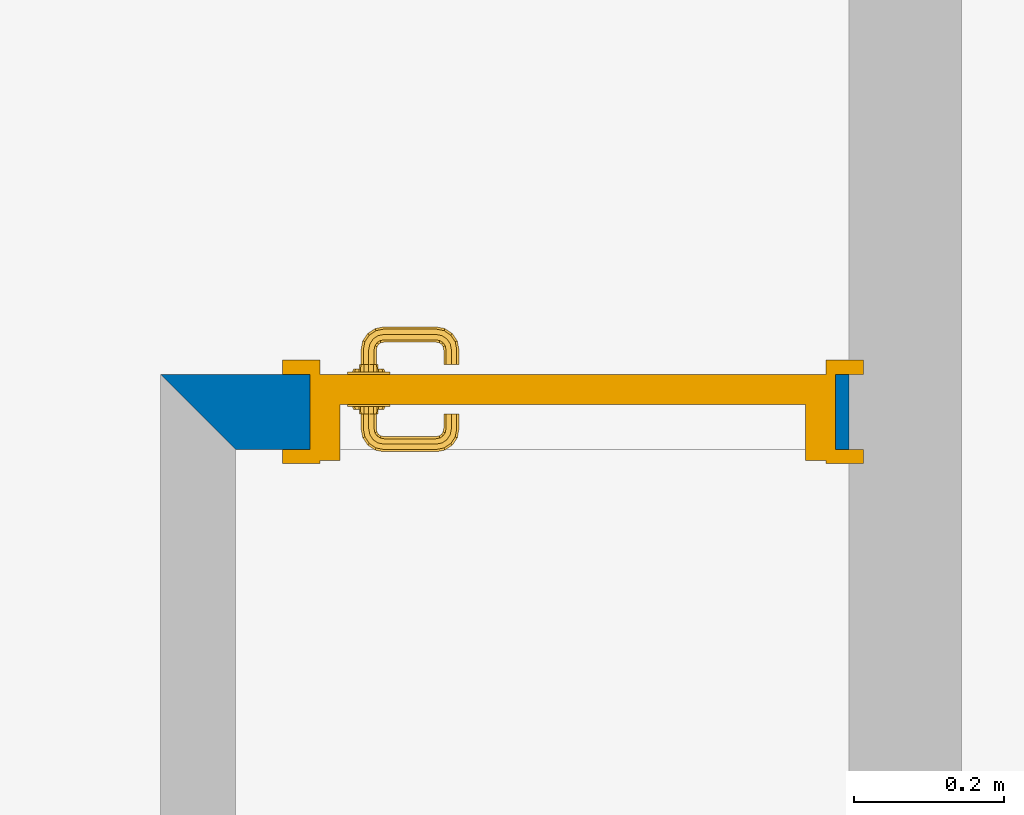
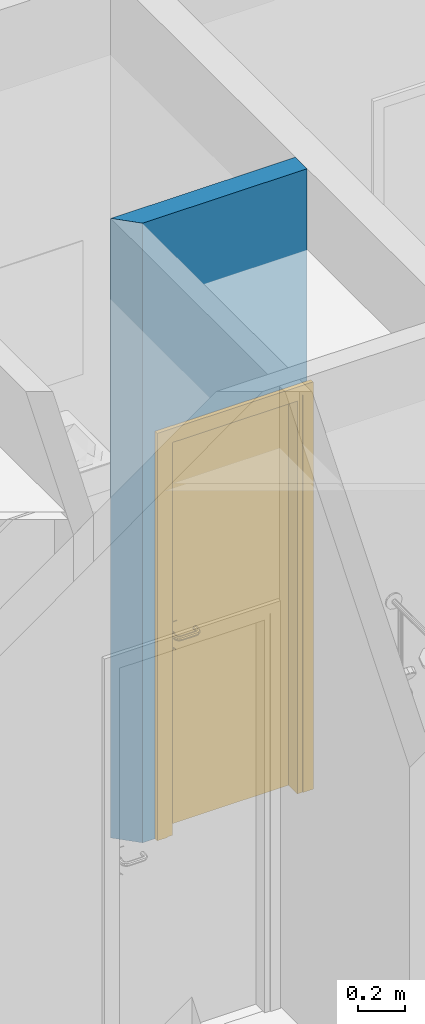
# One storey, part 22 of 194: 1 door, 1 wall, 1 opening.
"""IFC2X3 building model written with IfcOpenShell, lengths in millimetres."""

from ifc_helpers import new_model, entity, si_unit, converted_unit, derived_unit, money_unit, direction, frame, origin_with_axes, origin_2d_with_axis, place, context, subcontext, project, spatial, polyline, rectangle, outline, extrude, open_shell, faceted_brep, surface_model, source, transform, mapped, material, layer, layer_set, layer_usage, type_object, element, fill, save


model = new_model("IFC2X3")

# Units and contexts
model_context = context("Model", 3, precision=1e-05, world=origin_with_axes(), true_north=direction((0.0, 1.0)))
body_context = subcontext(model_context, "Body", "Model", "MODEL_VIEW")
ifc_project = project(units=[si_unit("LENGTHUNIT", "METRE", prefix="MILLI"), si_unit("AREAUNIT", "SQUARE_METRE"), si_unit("VOLUMEUNIT", "CUBIC_METRE"), converted_unit("PLANEANGLEUNIT", "DEGREE", entity("IfcPlaneAngleMeasure", 0.0174532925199), si_unit("PLANEANGLEUNIT", "RADIAN"), dimensions=[0, 0, 0, 0, 0, 0, 0]), si_unit("SOLIDANGLEUNIT", "STERADIAN"), money_unit("EUR"), converted_unit("TIMEUNIT", "Year", entity("IfcTimeMeasure", 31556926.0), si_unit("TIMEUNIT", "SECOND"), dimensions=[0, 0, 1, 0, 0, 0, 0]), si_unit("MASSUNIT", "GRAM", prefix="KILO"), si_unit("THERMODYNAMICTEMPERATUREUNIT", "DEGREE_CELSIUS"), si_unit("LUMINOUSINTENSITYUNIT", "LUMEN"), si_unit("ENERGYUNIT", "JOULE", prefix="MEGA"), derived_unit("THERMALCONDUCTANCEUNIT", [(si_unit("POWERUNIT", "WATT"), 1), (si_unit("LENGTHUNIT", "METRE"), -1), (si_unit("THERMODYNAMICTEMPERATUREUNIT", "KELVIN"), -1)]), derived_unit("SPECIFICHEATCAPACITYUNIT", [(si_unit("ENERGYUNIT", "JOULE"), 1), (si_unit("MASSUNIT", "GRAM", prefix="KILO"), -1), (si_unit("THERMODYNAMICTEMPERATUREUNIT", "KELVIN"), -1)]), derived_unit("MASSDENSITYUNIT", [(si_unit("MASSUNIT", "GRAM", prefix="KILO"), 1), (si_unit("VOLUMEUNIT", "CUBIC_METRE"), -1)])], contexts=[model_context])

# Site, building, storey
site_placement = place(None, origin_with_axes())
site = spatial("IfcSite", under=ifc_project, at=site_placement, Name="Site", CompositionType="ELEMENT")
building_placement = place(site_placement, origin_with_axes())
building = spatial("IfcBuilding", under=site, at=building_placement, Name="Building", CompositionType="ELEMENT")
storey_placement = place(building_placement, frame((0.0, 0.0, 3000.0), z_axis=(0.0, 0.0, 1.0), x_axis=(1.0, 0.0, 0.0)))
storey = spatial("IfcBuildingStorey", under=building, at=storey_placement, Name="2 KORRUS", CompositionType="ELEMENT", Elevation=3000.0)

# Wall, opening, door
ifc_material = material(Name="Kivi -Ol.Olev Konstruktsioon")
ifc_layer = layer(ifc_material, 100.0, ventilated="UNKNOWN")
ifc_layer_set = layer_set([ifc_layer], Name="ol.olev ss 100")
ifc_layer_usage = layer_usage(ifc_layer_set, "AXIS2", "POSITIVE", -100.0)
wall_type = type_object("IfcWallType", Name="SW - 022", PredefinedType="NOTDEFINED")
wall_placement = place(storey_placement, frame((72190.5515735, 38994.6064083, 0.0), z_axis=(0.0, 0.0, 1.0), x_axis=(1.0, 0.0, 0.0)))
wall = element("IfcWallStandardCase", 1, at=wall_placement, inside=storey, type_object=wall_type, material=ifc_layer_usage, Name="ol.olev ss 100", context=body_context, shape_type="SweptSolid", body=[
    extrude(outline(polyline([(0.0, -100.0), (816.876360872, -100.0), (816.876360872, 0.0), (-100.0, 0.0), (0.0, -100.0)])), origin_with_axes(), (0.0, 0.0, 1.0), 3250.0),
])
opening_placement = place(wall_placement, frame((449.330313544, 0.0, 0.0), z_axis=(0.0, 0.0, 1.0), x_axis=(1.0, 0.0, 0.0)))
opening = element("IfcOpeningElement", 2, at=opening_placement, cuts=wall, Name="Siseuks * Door 22", context=body_context, shape_type="SweptSolid", body=[
    extrude(rectangle(XDim=699.999999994, YDim=2100.0, at=origin_2d_with_axis()), frame((0.0, -100.0, 1050.0), z_axis=(0.0, 1.0, 0.0), x_axis=(1.0, 0.0, 0.0)), (0.0, 0.0, 1.0), 300.000000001),
    extrude(rectangle(XDim=773.999999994, YDim=2137.0, at=origin_2d_with_axis()), frame((0.0, -100.0, 1068.5), z_axis=(0.0, 1.0, 0.0), x_axis=(1.0, 0.0, 0.0)), (0.0, 0.0, -1.0), 100.0),
    extrude(rectangle(XDim=773.999999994, YDim=2137.0, at=origin_2d_with_axis()), frame((0.0, 0.0, 1068.5), z_axis=(0.0, -1.0, 0.0), x_axis=(1.0, 0.0, 0.0)), (0.0, 0.0, -1.0), 100.0),
])
door_style = type_object("IfcDoorStyle", Name="SU-B231C   700×2\xa0100", ConstructionType="NOTDEFINED", OperationType="SINGLE_SWING_RIGHT", ParameterTakesPrecedence=False, Sizeable=False)
shared_shape = source(origin_with_axes(), body_context, "Body", "SurfaceModel", [
    faceted_brep([(-386.999999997, -119.0, 0.0), (-386.999999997, -100.0, 0.0), (-336.999999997, -100.0, 0.0), (-336.999999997, -119.0, 0.0), (-386.999999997, -119.0, 2137.0), (-386.999999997, -100.0, 2137.0), (-336.999999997, -100.0, 2087.0), (-336.999999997, -119.0, 2087.0)], [[[0, 1, 2, 3]], [[4, 5, 1, 0]], [[1, 5, 6, 2]], [[3, 2, 6, 7]], [[0, 3, 7, 4]], [[7, 6, 5, 4]]]),
    faceted_brep([(386.999999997, -119.0, 2137.0), (386.999999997, -100.0, 2137.0), (336.999999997, -100.0, 2087.0), (336.999999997, -119.0, 2087.0), (386.999999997, -119.0, 0.0), (386.999999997, -100.0, 0.0), (336.999999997, -100.0, 0.0), (336.999999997, -119.0, 0.0)], [[[0, 1, 2, 3]], [[4, 5, 1, 0]], [[1, 5, 6, 2]], [[3, 2, 6, 7]], [[0, 3, 7, 4]], [[7, 6, 5, 4]]]),
    faceted_brep([(-386.999999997, -119.0, 2137.0), (-386.999999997, -100.0, 2137.0), (-336.999999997, -100.0, 2087.0), (-336.999999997, -119.0, 2087.0), (386.999999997, -119.0, 2137.0), (386.999999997, -100.0, 2137.0), (336.999999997, -100.0, 2087.0), (336.999999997, -119.0, 2087.0)], [[[0, 1, 2, 3]], [[4, 5, 1, 0]], [[1, 5, 6, 2]], [[3, 2, 6, 7]], [[0, 3, 7, 4]], [[7, 6, 5, 4]]]),
    faceted_brep([(-386.999999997, 19.0, 0.0), (-336.999999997, 19.0, 0.0), (-336.999999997, 0.0, 0.0), (-386.999999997, 0.0, 0.0), (-386.999999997, 19.0, 2137.0), (-336.999999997, 19.0, 2087.0), (-336.999999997, 0.0, 2087.0), (-386.999999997, 0.0, 2137.0)], [[[0, 1, 2, 3]], [[0, 4, 5, 1]], [[1, 5, 6, 2]], [[3, 2, 6, 7]], [[4, 0, 3, 7]], [[5, 4, 7, 6]]]),
    faceted_brep([(386.999999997, 19.0, 2137.0), (336.999999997, 19.0, 2087.0), (336.999999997, 0.0, 2087.0), (386.999999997, 0.0, 2137.0), (386.999999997, 19.0, 0.0), (336.999999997, 19.0, 0.0), (336.999999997, 0.0, 0.0), (386.999999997, 0.0, 0.0)], [[[0, 1, 2, 3]], [[0, 4, 5, 1]], [[1, 5, 6, 2]], [[3, 2, 6, 7]], [[4, 0, 3, 7]], [[5, 4, 7, 6]]]),
    faceted_brep([(-386.999999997, 19.0, 2137.0), (-336.999999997, 19.0, 2087.0), (-336.999999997, 0.0, 2087.0), (-386.999999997, 0.0, 2137.0), (386.999999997, 19.0, 2137.0), (336.999999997, 19.0, 2087.0), (336.999999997, 0.0, 2087.0), (386.999999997, 0.0, 2137.0)], [[[0, 1, 2, 3]], [[0, 4, 5, 1]], [[1, 5, 6, 2]], [[3, 2, 6, 7]], [[4, 0, 3, 7]], [[5, 4, 7, 6]]]),
    faceted_brep([(-309.999999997, -40.0, 0.0), (-309.999999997, -40.0, 2060.0), (-309.999999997, -115.0, 2060.0), (-309.999999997, -115.0, 0.0), (-321.999999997, -40.0, 2060.0), (-321.999999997, -40.0, 0.0), (-321.999999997, 0.0, 2060.0), (-349.999999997, 0.0, 2060.0), (-349.999999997, -115.0, 2060.0), (-349.999999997, -115.0, 0.0), (-349.999999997, 0.0, 0.0), (-321.999999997, 0.0, 0.0)], [[[0, 1, 2, 3]], [[4, 1, 0, 5]], [[4, 6, 7, 8, 2, 1]], [[3, 2, 8, 9]], [[5, 0, 3, 9, 10, 11]], [[6, 4, 5, 11]], [[6, 11, 10, 7]], [[10, 9, 8, 7]]]),
    faceted_brep([(321.999999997, -40.0, 2060.0), (309.999999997, -40.0, 2060.0), (309.999999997, -115.0, 2060.0), (349.999999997, -115.0, 2060.0), (349.999999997, 0.0, 2060.0), (321.999999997, 0.0, 2060.0), (321.999999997, -40.0, 0.0), (309.999999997, -40.0, 0.0), (309.999999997, -115.0, 0.0), (349.999999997, -115.0, 0.0), (349.999999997, 0.0, 0.0), (321.999999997, 0.0, 0.0)], [[[0, 1, 2, 3, 4, 5]], [[1, 0, 6, 7]], [[1, 7, 8, 2]], [[3, 2, 8, 9]], [[4, 3, 9, 10]], [[11, 5, 4, 10]], [[0, 5, 11, 6]], [[6, 11, 10, 9, 8, 7]]]),
    faceted_brep([(-321.999999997, 0.0, 2072.0), (-321.999999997, 0.0, 2060.0), (-349.999999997, 0.0, 2060.0), (-349.999999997, 0.0, 2100.0), (349.999999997, 0.0, 2100.0), (349.999999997, 0.0, 2060.0), (321.999999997, 0.0, 2060.0), (321.999999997, 0.0, 2072.0), (-321.999999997, -40.0, 2072.0), (-321.999999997, -40.0, 2060.0), (-309.999999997, -40.0, 2060.0), (-309.999999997, -115.0, 2060.0), (-349.999999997, -115.0, 2060.0), (-349.999999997, -115.0, 2100.0), (349.999999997, -115.0, 2100.0), (349.999999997, -115.0, 2060.0), (321.999999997, -40.0, 2060.0), (309.999999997, -115.0, 2060.0), (309.999999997, -40.0, 2060.0), (321.999999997, -40.0, 2072.0)], [[[0, 1, 2, 3, 4, 5, 6, 7]], [[1, 0, 8, 9]], [[9, 10, 11, 12, 2, 1]], [[2, 12, 13, 3]], [[3, 13, 14, 4]], [[4, 14, 15, 5]], [[16, 6, 5, 15, 17, 18]], [[7, 6, 16, 19]], [[0, 7, 19, 8]], [[16, 18, 10, 9, 8, 19]], [[10, 18, 17, 11]], [[17, 15, 14, 13, 12, 11]]]),
    faceted_brep([(-300.499999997, -40.0, 1060.0), (-300.499999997, -43.0, 1060.0), (-243.499999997, -43.0, 1060.0), (-243.499999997, -40.0, 1060.0), (-300.499999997, -40.0, 870.0), (-300.499999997, -43.0, 870.0), (-243.499999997, -43.0, 870.0), (-243.499999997, -40.0, 870.0)], [[[0, 1, 2, 3]], [[4, 5, 1, 0]], [[1, 5, 6, 2]], [[3, 2, 6, 7]], [[0, 3, 7, 4]], [[7, 6, 5, 4]]]),
    surface_model("IfcShellBasedSurfaceModel", [(-261.999999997, -53.0, 1000.0), (-261.999999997, -72.0150859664, 1000.0), (-264.928932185, -72.303560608, 992.928932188), (-264.928932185, -53.0, 992.928932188), (-264.928932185, -53.0, 1007.07106781), (-264.928932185, -72.303560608, 1007.07106781), (-261.057796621, -76.751862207, 1000.0), (-263.816790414, -77.8946748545, 992.928932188), (-271.999999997, -73.0, 990.0), (-271.999999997, -53.0, 990.0), (-271.999999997, -53.0, 1010.0), (-271.999999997, -73.0, 1010.0), (-263.816790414, -77.8946748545, 1007.07106781), (-258.932537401, -79.9325374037, 1000.0), (-261.04417983, -82.0441798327, 992.928932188), (-270.477590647, -80.6536686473, 990.0), (-279.071067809, -73.696439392, 992.928932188), (-279.071067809, -53.0, 992.928932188), (-279.071067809, -53.0, 1007.07106781), (-279.071067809, -73.696439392, 1007.07106781), (-270.477590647, -80.6536686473, 1010.0), (-261.04417983, -82.0441798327, 1007.07106781), (-255.751862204, -82.0577966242, 1000.0), (-256.894674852, -84.8167904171, 992.928932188), (-266.142135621, -87.1421356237, 990.0), (-277.13839088, -83.4126624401, 992.928932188), (-281.999999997, -73.9849140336, 1000.0), (-281.999999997, -53.0, 1000.0), (-277.13839088, -83.4126624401, 1007.07106781), (-266.142135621, -87.1421356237, 1010.0), (-256.894674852, -84.8167904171, 1007.07106781), (-251.015085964, -83.0, 1000.0), (-251.303560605, -85.9289321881, 992.928932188), (-259.653668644, -91.4775906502, 990.0), (-271.240091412, -92.2400914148, 992.928932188), (-279.897384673, -84.5554750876, 1000.0), (-271.240091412, -92.2400914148, 1007.07106781), (-259.653668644, -91.4775906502, 1010.0), (-251.303560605, -85.9289321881, 1007.07106781), (-182.984914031, -83.0, 1000.0), (-182.696439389, -85.9289321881, 992.928932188), (-251.999999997, -93.0, 990.0), (-262.412662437, -98.1383908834, 992.928932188), (-273.351733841, -94.3517338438, 1000.0), (-262.412662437, -98.1383908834, 1007.07106781), (-251.999999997, -93.0, 1010.0), (-182.696439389, -85.9289321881, 1007.07106781), (-178.24813779, -82.0577966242, 1000.0), (-177.105325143, -84.8167904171, 992.928932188), (-181.999999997, -93.0, 990.0), (-252.696439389, -100.071067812, 992.928932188), (-263.555475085, -100.897384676, 1000.0), (-252.696439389, -100.071067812, 1007.07106781), (-181.999999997, -93.0, 1010.0), (-177.105325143, -84.8167904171, 1007.07106781), (-175.067462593, -79.9325374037, 1000.0), (-172.955820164, -82.0441798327, 992.928932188), (-174.34633135, -91.4775906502, 990.0), (-181.303560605, -100.071067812, 992.928932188), (-252.984914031, -103.0, 1000.0), (-181.303560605, -100.071067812, 1007.07106781), (-174.34633135, -91.4775906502, 1010.0), (-172.955820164, -82.0441798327, 1007.07106781), (-172.942203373, -76.751862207, 1000.0), (-170.18320958, -77.8946748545, 992.928932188), (-167.857864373, -87.1421356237, 990.0), (-171.587337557, -98.1383908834, 992.928932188), (-181.015085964, -103.0, 1000.0), (-171.587337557, -98.1383908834, 1007.07106781), (-167.857864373, -87.1421356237, 1010.0), (-170.18320958, -77.8946748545, 1007.07106781), (-171.999999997, -72.0150859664, 1000.0), (-169.071067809, -72.303560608, 992.928932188), (-163.522409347, -80.6536686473, 990.0), (-162.759908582, -92.2400914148, 992.928932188), (-170.444524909, -100.897384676, 1000.0), (-162.759908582, -92.2400914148, 1007.07106781), (-163.522409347, -80.6536686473, 1010.0), (-169.071067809, -72.303560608, 1007.07106781), (-171.999999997, -53.0, 1000.0), (-169.071067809, -53.0, 992.928932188), (-161.999999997, -73.0, 990.0), (-156.861609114, -83.4126624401, 992.928932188), (-160.648266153, -94.3517338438, 1000.0), (-156.861609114, -83.4126624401, 1007.07106781), (-161.999999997, -73.0, 1010.0), (-169.071067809, -53.0, 1007.07106781), (-161.999999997, -53.0, 1010.0), (-154.928932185, -53.0, 1007.07106781), (-151.999999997, -53.0, 1000.0), (-154.928932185, -53.0, 992.928932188), (-161.999999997, -53.0, 990.0), (-154.928932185, -73.696439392, 992.928932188), (-154.102615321, -84.5554750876, 1000.0), (-154.928932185, -73.696439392, 1007.07106781), (-151.999999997, -73.9849140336, 1000.0)], [open_shell([[[0, 1, 2, 3]], [[4, 5, 1, 0]], [[1, 6, 7, 2]], [[3, 2, 8, 9]], [[10, 11, 5, 4]], [[5, 12, 6, 1]], [[6, 13, 14, 7]], [[2, 7, 15, 8]], [[9, 8, 16, 17]], [[18, 19, 11, 10]], [[11, 20, 12, 5]], [[12, 21, 13, 6]], [[13, 22, 23, 14]], [[7, 14, 24, 15]], [[8, 15, 25, 16]], [[17, 16, 26, 27]], [[27, 26, 19, 18]], [[19, 28, 20, 11]], [[20, 29, 21, 12]], [[21, 30, 22, 13]], [[22, 31, 32, 23]], [[14, 23, 33, 24]], [[15, 24, 34, 25]], [[16, 25, 35, 26]], [[26, 35, 28, 19]], [[28, 36, 29, 20]], [[29, 37, 30, 21]], [[30, 38, 31, 22]], [[31, 39, 40, 32]], [[23, 32, 41, 33]], [[24, 33, 42, 34]], [[25, 34, 43, 35]], [[35, 43, 36, 28]], [[36, 44, 37, 29]], [[37, 45, 38, 30]], [[38, 46, 39, 31]], [[39, 47, 48, 40]], [[32, 40, 49, 41]], [[33, 41, 50, 42]], [[34, 42, 51, 43]], [[43, 51, 44, 36]], [[44, 52, 45, 37]], [[45, 53, 46, 38]], [[46, 54, 47, 39]], [[47, 55, 56, 48]], [[40, 48, 57, 49]], [[41, 49, 58, 50]], [[42, 50, 59, 51]], [[51, 59, 52, 44]], [[52, 60, 53, 45]], [[53, 61, 54, 46]], [[54, 62, 55, 47]], [[55, 63, 64, 56]], [[48, 56, 65, 57]], [[49, 57, 66, 58]], [[50, 58, 67, 59]], [[59, 67, 60, 52]], [[60, 68, 61, 53]], [[61, 69, 62, 54]], [[62, 70, 63, 55]], [[63, 71, 72, 64]], [[56, 64, 73, 65]], [[57, 65, 74, 66]], [[58, 66, 75, 67]], [[67, 75, 68, 60]], [[68, 76, 69, 61]], [[69, 77, 70, 62]], [[70, 78, 71, 63]], [[71, 79, 80, 72]], [[64, 72, 81, 73]], [[65, 73, 82, 74]], [[66, 74, 83, 75]], [[75, 83, 76, 68]], [[76, 84, 77, 69]], [[77, 85, 78, 70]], [[78, 86, 79, 71]], [[79, 86, 87, 88, 89, 90, 91, 80]], [[72, 80, 91, 81]], [[73, 81, 92, 82]], [[74, 82, 93, 83]], [[83, 93, 84, 76]], [[84, 94, 85, 77]], [[85, 87, 86, 78]], [[94, 88, 87, 85]], [[95, 89, 88, 94]], [[92, 90, 89, 95]], [[81, 91, 90, 92]], [[82, 92, 95, 93]], [[93, 95, 94, 84]]])]),
    faceted_brep([(-261.607695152, -53.0, 994.0), (-260.741669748, -43.0, 993.5), (-258.999999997, -43.0, 1000.0), (-259.999999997, -53.0, 1000.0), (-265.999999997, -53.0, 989.607695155), (-265.499999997, -43.0, 988.741669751), (-271.999999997, -43.0, 987.0), (-278.499999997, -43.0, 988.741669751), (-283.258330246, -43.0, 993.5), (-284.999999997, -43.0, 1000.0), (-283.258330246, -43.0, 1006.5), (-278.499999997, -43.0, 1011.25833025), (-271.999999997, -43.0, 1013.0), (-265.499999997, -43.0, 1011.25833025), (-260.741669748, -43.0, 1006.5), (-261.607695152, -53.0, 1006.0), (-265.999999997, -53.0, 1010.39230485), (-271.999999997, -53.0, 1012.0), (-277.999999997, -53.0, 1010.39230485), (-282.392304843, -53.0, 1006.0), (-283.999999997, -53.0, 1000.0), (-282.392304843, -53.0, 994.0), (-277.999999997, -53.0, 989.607695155), (-271.999999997, -53.0, 988.0)], [[[0, 1, 2, 3]], [[4, 5, 1, 0]], [[2, 1, 5, 6, 7, 8, 9, 10, 11, 12, 13, 14]], [[3, 2, 14, 15]], [[3, 15, 16, 17, 18, 19, 20, 21, 22, 23, 4, 0]], [[23, 6, 5, 4]], [[22, 7, 6, 23]], [[21, 8, 7, 22]], [[20, 9, 8, 21]], [[19, 10, 9, 20]], [[18, 11, 10, 19]], [[17, 12, 11, 18]], [[16, 13, 12, 17]], [[15, 14, 13, 16]]]),
    faceted_brep([(-254.679491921, -47.0, 895.0), (-252.947441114, -43.0, 894.0), (-249.999999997, -43.0, 905.0), (-251.999999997, -47.0, 905.0), (-261.999999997, -47.0, 887.679491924), (-260.999999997, -43.0, 885.947441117), (-271.999999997, -43.0, 883.0), (-282.999999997, -43.0, 885.947441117), (-291.05255888, -43.0, 894.0), (-293.999999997, -43.0, 905.0), (-291.05255888, -43.0, 916.0), (-282.999999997, -43.0, 924.052558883), (-271.999999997, -43.0, 927.0), (-260.999999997, -43.0, 924.052558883), (-252.947441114, -43.0, 916.0), (-254.679491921, -47.0, 915.0), (-261.999999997, -47.0, 922.320508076), (-271.999999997, -47.0, 925.0), (-281.999999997, -47.0, 922.320508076), (-289.320508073, -47.0, 915.0), (-291.999999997, -47.0, 905.0), (-289.320508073, -47.0, 895.0), (-281.999999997, -47.0, 887.679491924), (-271.999999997, -47.0, 885.0)], [[[0, 1, 2, 3]], [[4, 5, 1, 0]], [[2, 1, 5, 6, 7, 8, 9, 10, 11, 12, 13, 14]], [[3, 2, 14, 15]], [[3, 15, 16, 17, 18, 19, 20, 21, 22, 23, 4, 0]], [[23, 6, 5, 4]], [[22, 7, 6, 23]], [[21, 8, 7, 22]], [[20, 9, 8, 21]], [[19, 10, 9, 20]], [[18, 11, 10, 19]], [[17, 12, 11, 18]], [[16, 13, 12, 17]], [[15, 14, 13, 16]]]),
    faceted_brep([(-267.050252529, -49.0, 909.050252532), (-266.343145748, -47.0, 908.343145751), (-263.999999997, -47.0, 914.0), (-264.999999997, -49.0, 914.0), (-271.999999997, -49.0, 907.0), (-271.999999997, -47.0, 906.0), (-277.656854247, -47.0, 908.343145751), (-279.999999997, -47.0, 914.0), (-277.656854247, -47.0, 919.656854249), (-271.999999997, -47.0, 922.0), (-266.343145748, -47.0, 919.656854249), (-267.050252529, -49.0, 918.949747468), (-271.999999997, -49.0, 921.0), (-276.949747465, -49.0, 918.949747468), (-278.999999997, -49.0, 914.0), (-276.949747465, -49.0, 909.050252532)], [[[0, 1, 2, 3]], [[4, 5, 1, 0]], [[2, 1, 5, 6, 7, 8, 9, 10]], [[3, 2, 10, 11]], [[3, 11, 12, 13, 14, 15, 4, 0]], [[15, 6, 5, 4]], [[14, 7, 6, 15]], [[13, 8, 7, 14]], [[12, 9, 8, 13]], [[11, 10, 9, 12]]]),
    faceted_brep([(-300.499999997, 0.0, 1060.0), (-243.499999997, 0.0, 1060.0), (-243.499999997, 3.0, 1060.0), (-300.499999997, 3.0, 1060.0), (-300.499999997, 0.0, 870.0), (-243.499999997, 0.0, 870.0), (-243.499999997, 3.0, 870.0), (-300.499999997, 3.0, 870.0)], [[[0, 1, 2, 3]], [[0, 4, 5, 1]], [[1, 5, 6, 2]], [[3, 2, 6, 7]], [[4, 0, 3, 7]], [[5, 4, 7, 6]]]),
    surface_model("IfcShellBasedSurfaceModel", [(-261.999999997, 13.0, 1000.0), (-264.928932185, 13.0, 992.928932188), (-264.928932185, 32.303560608, 992.928932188), (-261.999999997, 32.0150859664, 1000.0), (-271.999999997, 13.0, 990.0), (-271.999999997, 33.0, 990.0), (-263.816790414, 37.8946748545, 992.928932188), (-261.057796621, 36.751862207, 1000.0), (-264.928932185, 13.0, 1007.07106781), (-264.928932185, 32.303560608, 1007.07106781), (-279.071067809, 13.0, 992.928932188), (-279.071067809, 33.696439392, 992.928932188), (-270.477590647, 40.6536686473, 990.0), (-261.04417983, 42.0441798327, 992.928932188), (-258.932537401, 39.9325374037, 1000.0), (-263.816790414, 37.8946748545, 1007.07106781), (-271.999999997, 13.0, 1010.0), (-271.999999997, 33.0, 1010.0), (-281.999999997, 13.0, 1000.0), (-281.999999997, 33.9849140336, 1000.0), (-277.13839088, 43.4126624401, 992.928932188), (-266.142135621, 47.1421356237, 990.0), (-256.894674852, 44.8167904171, 992.928932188), (-255.751862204, 42.0577966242, 1000.0), (-261.04417983, 42.0441798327, 1007.07106781), (-270.477590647, 40.6536686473, 1010.0), (-279.071067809, 13.0, 1007.07106781), (-279.071067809, 33.696439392, 1007.07106781), (-279.897384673, 44.5554750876, 1000.0), (-271.240091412, 52.2400914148, 992.928932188), (-259.653668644, 51.4775906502, 990.0), (-251.303560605, 45.9289321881, 992.928932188), (-251.015085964, 43.0, 1000.0), (-256.894674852, 44.8167904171, 1007.07106781), (-266.142135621, 47.1421356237, 1010.0), (-277.13839088, 43.4126624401, 1007.07106781), (-273.351733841, 54.3517338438, 1000.0), (-262.412662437, 58.1383908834, 992.928932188), (-251.999999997, 53.0, 990.0), (-182.696439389, 45.9289321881, 992.928932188), (-182.984914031, 43.0, 1000.0), (-251.303560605, 45.9289321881, 1007.07106781), (-259.653668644, 51.4775906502, 1010.0), (-271.240091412, 52.2400914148, 1007.07106781), (-263.555475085, 60.8973846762, 1000.0), (-252.696439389, 60.0710678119, 992.928932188), (-181.999999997, 53.0, 990.0), (-177.105325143, 44.8167904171, 992.928932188), (-178.24813779, 42.0577966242, 1000.0), (-182.696439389, 45.9289321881, 1007.07106781), (-251.999999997, 53.0, 1010.0), (-262.412662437, 58.1383908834, 1007.07106781), (-252.984914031, 63.0, 1000.0), (-181.303560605, 60.0710678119, 992.928932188), (-174.34633135, 51.4775906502, 990.0), (-172.955820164, 42.0441798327, 992.928932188), (-175.067462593, 39.9325374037, 1000.0), (-177.105325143, 44.8167904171, 1007.07106781), (-181.999999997, 53.0, 1010.0), (-252.696439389, 60.0710678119, 1007.07106781), (-181.015085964, 63.0, 1000.0), (-171.587337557, 58.1383908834, 992.928932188), (-167.857864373, 47.1421356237, 990.0), (-170.18320958, 37.8946748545, 992.928932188), (-172.942203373, 36.751862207, 1000.0), (-172.955820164, 42.0441798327, 1007.07106781), (-174.34633135, 51.4775906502, 1010.0), (-181.303560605, 60.0710678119, 1007.07106781), (-170.444524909, 60.8973846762, 1000.0), (-162.759908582, 52.2400914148, 992.928932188), (-163.522409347, 40.6536686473, 990.0), (-169.071067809, 32.303560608, 992.928932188), (-171.999999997, 32.0150859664, 1000.0), (-170.18320958, 37.8946748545, 1007.07106781), (-167.857864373, 47.1421356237, 1010.0), (-171.587337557, 58.1383908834, 1007.07106781), (-160.648266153, 54.3517338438, 1000.0), (-156.861609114, 43.4126624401, 992.928932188), (-161.999999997, 33.0, 990.0), (-169.071067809, 13.0, 992.928932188), (-171.999999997, 13.0, 1000.0), (-169.071067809, 32.303560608, 1007.07106781), (-163.522409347, 40.6536686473, 1010.0), (-162.759908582, 52.2400914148, 1007.07106781), (-154.102615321, 44.5554750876, 1000.0), (-154.928932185, 33.696439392, 992.928932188), (-161.999999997, 13.0, 990.0), (-154.928932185, 13.0, 992.928932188), (-151.999999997, 13.0, 1000.0), (-154.928932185, 13.0, 1007.07106781), (-161.999999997, 13.0, 1010.0), (-169.071067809, 13.0, 1007.07106781), (-161.999999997, 33.0, 1010.0), (-156.861609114, 43.4126624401, 1007.07106781), (-151.999999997, 33.9849140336, 1000.0), (-154.928932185, 33.696439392, 1007.07106781)], [open_shell([[[0, 1, 2, 3]], [[1, 4, 5, 2]], [[3, 2, 6, 7]], [[8, 0, 3, 9]], [[4, 10, 11, 5]], [[2, 5, 12, 6]], [[7, 6, 13, 14]], [[9, 3, 7, 15]], [[16, 8, 9, 17]], [[10, 18, 19, 11]], [[5, 11, 20, 12]], [[6, 12, 21, 13]], [[14, 13, 22, 23]], [[15, 7, 14, 24]], [[17, 9, 15, 25]], [[26, 16, 17, 27]], [[18, 26, 27, 19]], [[11, 19, 28, 20]], [[12, 20, 29, 21]], [[13, 21, 30, 22]], [[23, 22, 31, 32]], [[24, 14, 23, 33]], [[25, 15, 24, 34]], [[27, 17, 25, 35]], [[19, 27, 35, 28]], [[20, 28, 36, 29]], [[21, 29, 37, 30]], [[22, 30, 38, 31]], [[32, 31, 39, 40]], [[33, 23, 32, 41]], [[34, 24, 33, 42]], [[35, 25, 34, 43]], [[28, 35, 43, 36]], [[29, 36, 44, 37]], [[30, 37, 45, 38]], [[31, 38, 46, 39]], [[40, 39, 47, 48]], [[41, 32, 40, 49]], [[42, 33, 41, 50]], [[43, 34, 42, 51]], [[36, 43, 51, 44]], [[37, 44, 52, 45]], [[38, 45, 53, 46]], [[39, 46, 54, 47]], [[48, 47, 55, 56]], [[49, 40, 48, 57]], [[50, 41, 49, 58]], [[51, 42, 50, 59]], [[44, 51, 59, 52]], [[45, 52, 60, 53]], [[46, 53, 61, 54]], [[47, 54, 62, 55]], [[56, 55, 63, 64]], [[57, 48, 56, 65]], [[58, 49, 57, 66]], [[59, 50, 58, 67]], [[52, 59, 67, 60]], [[53, 60, 68, 61]], [[54, 61, 69, 62]], [[55, 62, 70, 63]], [[64, 63, 71, 72]], [[65, 56, 64, 73]], [[66, 57, 65, 74]], [[67, 58, 66, 75]], [[60, 67, 75, 68]], [[61, 68, 76, 69]], [[62, 69, 77, 70]], [[63, 70, 78, 71]], [[72, 71, 79, 80]], [[73, 64, 72, 81]], [[74, 65, 73, 82]], [[75, 66, 74, 83]], [[68, 75, 83, 76]], [[69, 76, 84, 77]], [[70, 77, 85, 78]], [[71, 78, 86, 79]], [[80, 79, 86, 87, 88, 89, 90, 91]], [[81, 72, 80, 91]], [[82, 73, 81, 92]], [[83, 74, 82, 93]], [[76, 83, 93, 84]], [[77, 84, 94, 85]], [[78, 85, 87, 86]], [[85, 94, 88, 87]], [[94, 95, 89, 88]], [[95, 92, 90, 89]], [[92, 81, 91, 90]], [[93, 82, 92, 95]], [[84, 93, 95, 94]]])]),
    faceted_brep([(-261.607695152, 13.0, 994.0), (-259.999999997, 13.0, 1000.0), (-258.999999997, 3.0, 1000.0), (-260.741669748, 3.0, 993.5), (-265.999999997, 13.0, 989.607695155), (-271.999999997, 13.0, 988.0), (-277.999999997, 13.0, 989.607695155), (-282.392304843, 13.0, 994.0), (-283.999999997, 13.0, 1000.0), (-282.392304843, 13.0, 1006.0), (-277.999999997, 13.0, 1010.39230485), (-271.999999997, 13.0, 1012.0), (-265.999999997, 13.0, 1010.39230485), (-261.607695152, 13.0, 1006.0), (-260.741669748, 3.0, 1006.5), (-265.499999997, 3.0, 1011.25833025), (-271.999999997, 3.0, 1013.0), (-278.499999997, 3.0, 1011.25833025), (-283.258330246, 3.0, 1006.5), (-284.999999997, 3.0, 1000.0), (-283.258330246, 3.0, 993.5), (-278.499999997, 3.0, 988.741669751), (-271.999999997, 3.0, 987.0), (-265.499999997, 3.0, 988.741669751)], [[[0, 1, 2, 3]], [[1, 0, 4, 5, 6, 7, 8, 9, 10, 11, 12, 13]], [[1, 13, 14, 2]], [[2, 14, 15, 16, 17, 18, 19, 20, 21, 22, 23, 3]], [[4, 0, 3, 23]], [[5, 4, 23, 22]], [[6, 5, 22, 21]], [[7, 6, 21, 20]], [[8, 7, 20, 19]], [[9, 8, 19, 18]], [[10, 9, 18, 17]], [[11, 10, 17, 16]], [[12, 11, 16, 15]], [[13, 12, 15, 14]]]),
    faceted_brep([(-254.679491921, 7.0, 895.0), (-251.999999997, 7.0, 905.0), (-249.999999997, 3.0, 905.0), (-252.947441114, 3.0, 894.0), (-261.999999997, 7.0, 887.679491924), (-271.999999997, 7.0, 885.0), (-281.999999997, 7.0, 887.679491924), (-289.320508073, 7.0, 895.0), (-291.999999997, 7.0, 905.0), (-289.320508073, 7.0, 915.0), (-281.999999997, 7.0, 922.320508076), (-271.999999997, 7.0, 925.0), (-261.999999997, 7.0, 922.320508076), (-254.679491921, 7.0, 915.0), (-252.947441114, 3.0, 916.0), (-260.999999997, 3.0, 924.052558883), (-271.999999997, 3.0, 927.0), (-282.999999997, 3.0, 924.052558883), (-291.05255888, 3.0, 916.0), (-293.999999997, 3.0, 905.0), (-291.05255888, 3.0, 894.0), (-282.999999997, 3.0, 885.947441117), (-271.999999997, 3.0, 883.0), (-260.999999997, 3.0, 885.947441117)], [[[0, 1, 2, 3]], [[1, 0, 4, 5, 6, 7, 8, 9, 10, 11, 12, 13]], [[1, 13, 14, 2]], [[2, 14, 15, 16, 17, 18, 19, 20, 21, 22, 23, 3]], [[4, 0, 3, 23]], [[5, 4, 23, 22]], [[6, 5, 22, 21]], [[7, 6, 21, 20]], [[8, 7, 20, 19]], [[9, 8, 19, 18]], [[10, 9, 18, 17]], [[11, 10, 17, 16]], [[12, 11, 16, 15]], [[13, 12, 15, 14]]]),
    faceted_brep([(-267.050252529, 9.0, 909.050252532), (-264.999999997, 9.0, 914.0), (-263.999999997, 7.0, 914.0), (-266.343145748, 7.0, 908.343145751), (-271.999999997, 9.0, 907.0), (-276.949747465, 9.0, 909.050252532), (-278.999999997, 9.0, 914.0), (-276.949747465, 9.0, 918.949747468), (-271.999999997, 9.0, 921.0), (-267.050252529, 9.0, 918.949747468), (-266.343145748, 7.0, 919.656854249), (-271.999999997, 7.0, 922.0), (-277.656854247, 7.0, 919.656854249), (-279.999999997, 7.0, 914.0), (-277.656854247, 7.0, 908.343145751), (-271.999999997, 7.0, 906.0)], [[[0, 1, 2, 3]], [[1, 0, 4, 5, 6, 7, 8, 9]], [[1, 9, 10, 2]], [[2, 10, 11, 12, 13, 14, 15, 3]], [[4, 0, 3, 15]], [[5, 4, 15, 14]], [[6, 5, 14, 13]], [[7, 6, 13, 12]], [[8, 7, 12, 11]], [[9, 8, 11, 10]]]),
    faceted_brep([(321.999999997, 0.0, 0.0), (321.999999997, -40.0, 0.0), (-321.999999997, -40.0, 0.0), (-321.999999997, 0.0, 0.0), (321.999999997, 0.0, 2072.0), (321.999999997, -40.0, 2072.0), (-321.999999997, -40.0, 2072.0), (-321.999999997, 0.0, 2072.0)], [[[0, 1, 2, 3]], [[4, 5, 1, 0]], [[1, 5, 6, 2]], [[3, 2, 6, 7]], [[0, 3, 7, 4]], [[7, 6, 5, 4]]]),
])
door_placement = place(opening_placement, frame((-349.999999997, 0.0, 0.0), z_axis=(0.0, 0.0, 1.0), x_axis=(1.0, 0.0, 0.0)))
door = element("IfcDoor", 3, at=door_placement, inside=storey, type_object=door_style, Name="Siseuks * Door 22", OverallHeight=2100.0, OverallWidth=700.0, context=body_context, shape_type="MappedRepresentation", body=[
    mapped(shared_shape, transform((349.999999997, 0.0, 0.0))),
])
fill(opening, door)

save(model, "model.ifc")
